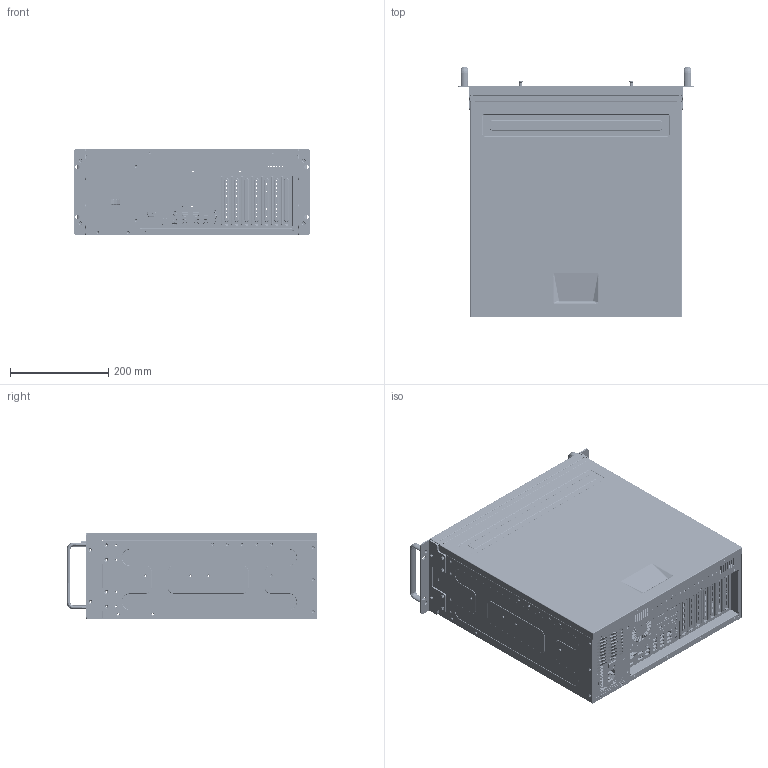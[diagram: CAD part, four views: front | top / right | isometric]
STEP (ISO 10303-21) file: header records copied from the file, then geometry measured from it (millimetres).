
FILE_DESCRIPTION(/* description */ (''),/* implementation_level */ '2;1');
FILE_NAME(/* name */ 'HRC-UA zhiwei',/* time_stamp */ '2025-08-06T16:11:33+08:00',/* author */ (''),/* organization */ (''),/* preprocessor_version */ 'ST-DEVELOPER v19.2',/* originating_system */ 'Rhino 8.9',/* authorisation */ '');
FILE_SCHEMA (('AUTOMOTIVE_DESIGN'));
Products named in the file (2): Document; PS2+USB2x2_LOTES
Bounding box: 481.6 x 510.4 x 176 mm (x, y, z)
Volume: 830427.8 mm3; surface area: 1936012.9 mm2
Topology: 94 solids, 113 shells, 17032 faces, 47804 edges, 30726 vertices
Faces by surface type: plane 12689, cylinder 3485, bspline 858
Entity records: 564964 total; most frequent: CARTESIAN_POINT 210893, ORIENTED_EDGE 95156, EDGE_CURVE 47671, B_SPLINE_CURVE_WITH_KNOTS 41398, VERTEX_POINT 30699, DIRECTION 28260, AXIS2_PLACEMENT_3D 22217, EDGE_LOOP 19562
